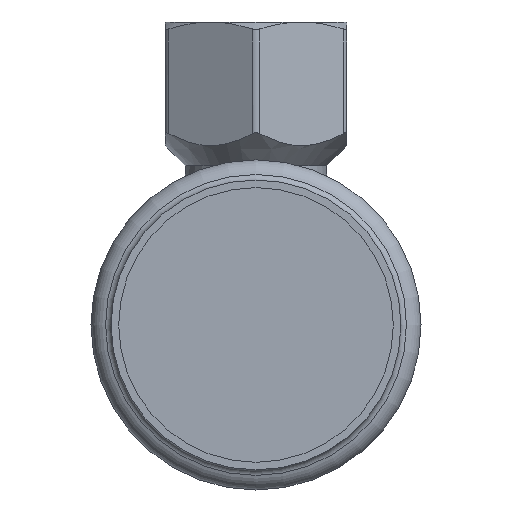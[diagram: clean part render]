
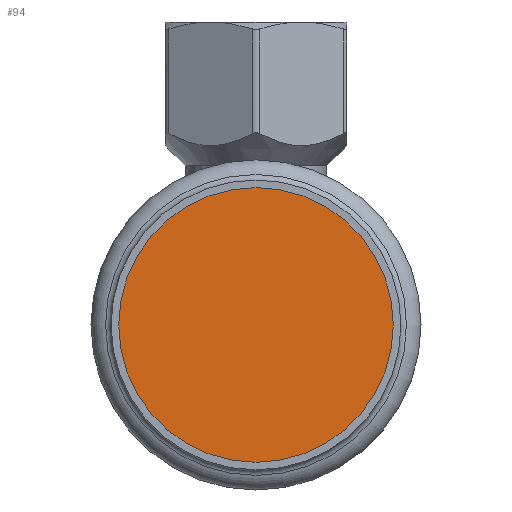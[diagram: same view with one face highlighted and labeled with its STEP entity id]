
A CAD part, front view. The second image highlights one B-rep face of the part: STEP entity #94.
In plain terms, the highlighted planar face has unit normal (0, -1, 0).
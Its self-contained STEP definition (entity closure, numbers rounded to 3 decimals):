
#94=ADVANCED_FACE('',(#429),#431,.T.);
#429=FACE_BOUND('',#430,.T.);
#430=EDGE_LOOP('',(#589));
#431=PLANE('',#432);
#432=AXIS2_PLACEMENT_3D('',#433,#434,#435);
#433=CARTESIAN_POINT('',(0.,-67.792,0.));
#434=DIRECTION('',(0.,-1.,0.));
#435=DIRECTION('',(0.,0.,-1.));
#589=ORIENTED_EDGE('',*,*,#663,.T.);
#663=EDGE_CURVE('',#791,#791,#792,.F.);
#791=VERTEX_POINT('',#2340);
#792=CIRCLE('',#2341,27.2);
#2340=CARTESIAN_POINT('',(0.,-67.792,27.2));
#2341=AXIS2_PLACEMENT_3D('',#2342,#2343,#2344);
#2342=CARTESIAN_POINT('',(0.,-67.792,0.));
#2343=DIRECTION('',(0.,1.,0.));
#2344=DIRECTION('',(0.,0.,1.));
